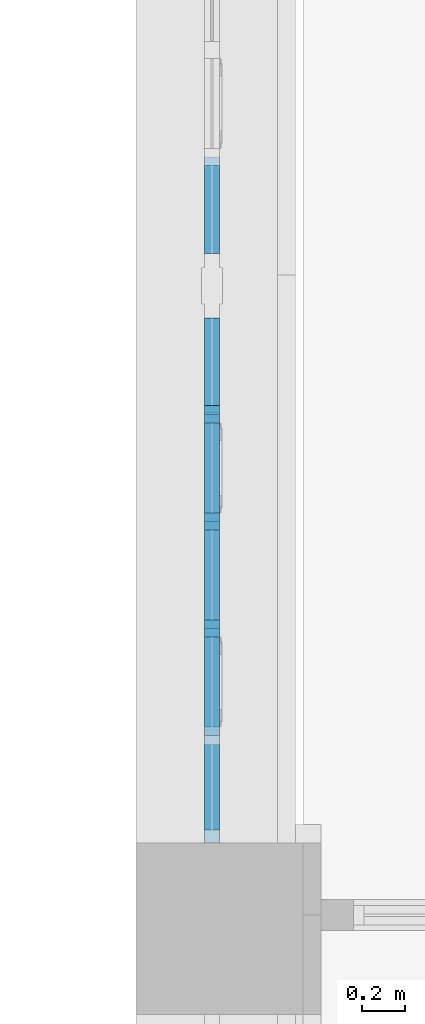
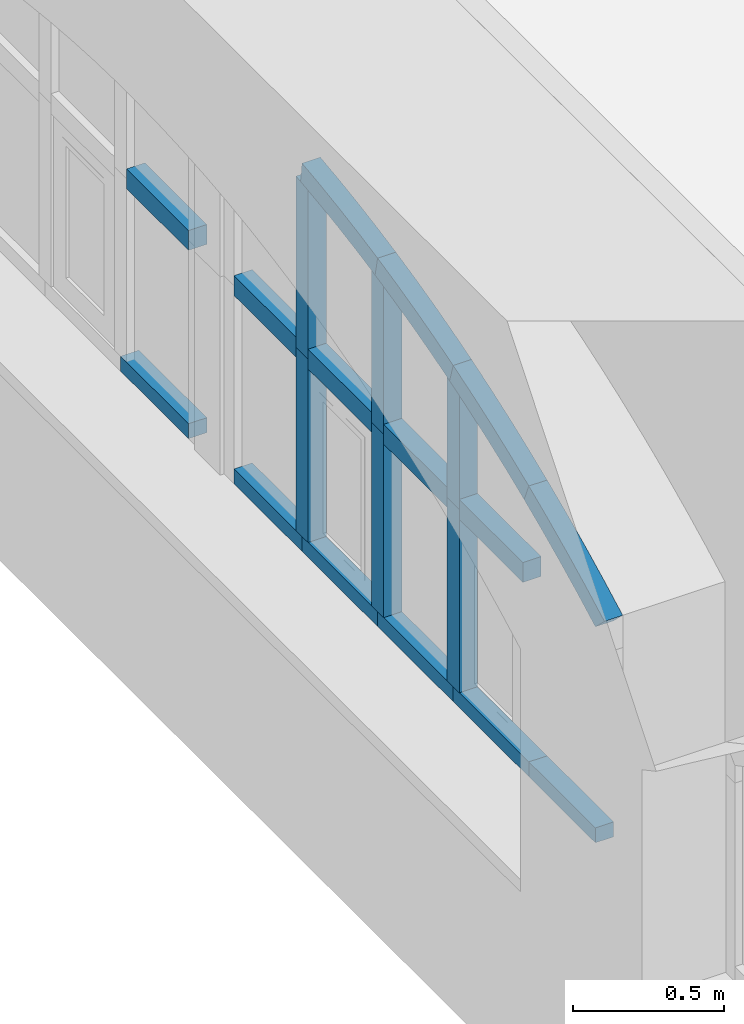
# One storey, part 15 of 32: 21 members, 1 element without a shape of its own.
"""IFC2X3 building model written with IfcOpenShell, lengths in millimetres."""

from ifc_helpers import new_model, entity, si_unit, converted_unit, derived_unit, direction, frame, frame_2d, origin, place, context, subcontext, project, spatial, polyline, circle_curve, parameter, trimmed, segment, composite_curve, rectangle, outline, extrude, source, transform, mapped, material, type_object, type_shapes, element, aggregate, save


model = new_model("IFC2X3")

# Units and contexts
model_context = context("Model", 3, precision=0.01, world=origin(), true_north=direction((6.123031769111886e-17, 1.0)))
body_context = subcontext(model_context, "Body", "Model", "MODEL_VIEW")
ifc_project = project(units=[si_unit("LENGTHUNIT", "METRE", prefix="MILLI"), si_unit("AREAUNIT", "SQUARE_METRE"), si_unit("VOLUMEUNIT", "CUBIC_METRE"), converted_unit("PLANEANGLEUNIT", "DEGREE", entity("IfcPlaneAngleMeasure", 0.017453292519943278), si_unit("PLANEANGLEUNIT", "RADIAN"), dimensions=[0, 0, 0, 0, 0, 0, 0]), si_unit("MASSUNIT", "GRAM", prefix="KILO"), derived_unit("MASSDENSITYUNIT", [(si_unit("MASSUNIT", "GRAM", prefix="KILO"), 1), (si_unit("LENGTHUNIT", "METRE"), -3)]), derived_unit("IONCONCENTRATIONUNIT", [(si_unit("MASSUNIT", "GRAM", prefix="KILO"), 1), (si_unit("LENGTHUNIT", "METRE"), -3)]), derived_unit("MOMENTOFINERTIAUNIT", [(si_unit("LENGTHUNIT", "METRE"), 4)]), si_unit("TIMEUNIT", "SECOND"), si_unit("FREQUENCYUNIT", "HERTZ"), si_unit("THERMODYNAMICTEMPERATUREUNIT", "DEGREE_CELSIUS"), derived_unit("THERMALTRANSMITTANCEUNIT", [(si_unit("MASSUNIT", "GRAM", prefix="KILO"), 1), (si_unit("THERMODYNAMICTEMPERATUREUNIT", "KELVIN"), -1), (si_unit("TIMEUNIT", "SECOND"), -3)]), derived_unit("THERMALCONDUCTANCEUNIT", [(si_unit("MASSUNIT", "GRAM", prefix="KILO"), 1), (si_unit("THERMODYNAMICTEMPERATUREUNIT", "KELVIN"), -1), (si_unit("TIMEUNIT", "SECOND"), -3), (si_unit("LENGTHUNIT", "METRE"), 1)]), derived_unit("VOLUMETRICFLOWRATEUNIT", [(si_unit("LENGTHUNIT", "METRE", prefix="DECI"), 3), (si_unit("TIMEUNIT", "SECOND"), -1)]), derived_unit("MASSFLOWRATEUNIT", [(si_unit("MASSUNIT", "GRAM", prefix="KILO"), 1), (si_unit("TIMEUNIT", "SECOND"), -1)]), derived_unit("ROTATIONALFREQUENCYUNIT", [(si_unit("TIMEUNIT", "SECOND"), -1)]), si_unit("ELECTRICCURRENTUNIT", "AMPERE"), si_unit("ELECTRICVOLTAGEUNIT", "VOLT"), si_unit("POWERUNIT", "WATT"), si_unit("FORCEUNIT", "NEWTON", prefix="KILO"), si_unit("ILLUMINANCEUNIT", "LUX"), si_unit("LUMINOUSFLUXUNIT", "LUMEN"), si_unit("LUMINOUSINTENSITYUNIT", "CANDELA"), si_unit("ENERGYUNIT", "JOULE"), derived_unit("USERDEFINED", [(si_unit("MASSUNIT", "GRAM", prefix="KILO"), -1), (si_unit("LENGTHUNIT", "METRE"), -2), (si_unit("TIMEUNIT", "SECOND"), 3), (si_unit("LUMINOUSFLUXUNIT", "LUMEN"), 1)]), derived_unit("USERDEFINED", [(si_unit("MASSUNIT", "GRAM", prefix="KILO"), 1), (si_unit("TIMEUNIT", "SECOND"), -3), (si_unit("LENGTHUNIT", "METRE"), 3), (si_unit("ELECTRICCURRENTUNIT", "AMPERE"), -2)]), derived_unit("SOUNDPOWERUNIT", [(si_unit("MASSUNIT", "GRAM", prefix="KILO"), 1), (si_unit("TIMEUNIT", "SECOND"), -3), (si_unit("LENGTHUNIT", "METRE"), 2)]), derived_unit("SOUNDPRESSUREUNIT", [(si_unit("MASSUNIT", "GRAM", prefix="KILO"), 1), (si_unit("LENGTHUNIT", "METRE"), -1), (si_unit("TIMEUNIT", "SECOND"), -2)]), derived_unit("LINEARVELOCITYUNIT", [(si_unit("LENGTHUNIT", "METRE"), 1), (si_unit("TIMEUNIT", "SECOND"), -1)]), si_unit("PRESSUREUNIT", "PASCAL"), derived_unit("USERDEFINED", [(si_unit("MASSUNIT", "GRAM", prefix="KILO"), 1), (si_unit("LENGTHUNIT", "METRE"), -2), (si_unit("TIMEUNIT", "SECOND"), -2)]), derived_unit("LINEARFORCEUNIT", [(si_unit("MASSUNIT", "GRAM", prefix="KILO"), 1), (si_unit("TIMEUNIT", "SECOND"), -2)]), derived_unit("PLANARFORCEUNIT", [(si_unit("MASSUNIT", "GRAM", prefix="KILO"), 1), (si_unit("LENGTHUNIT", "METRE"), -1), (si_unit("TIMEUNIT", "SECOND"), -2)]), derived_unit("SPECIFICHEATCAPACITYUNIT", [(si_unit("THERMODYNAMICTEMPERATUREUNIT", "KELVIN"), -1), (si_unit("LENGTHUNIT", "METRE"), 2), (si_unit("TIMEUNIT", "SECOND"), -2)]), derived_unit("HEATFLUXDENSITYUNIT", [(si_unit("MASSUNIT", "GRAM", prefix="KILO"), 1), (si_unit("TIMEUNIT", "SECOND"), -3)]), derived_unit("HEATINGVALUEUNIT", [(si_unit("LENGTHUNIT", "METRE"), 2), (si_unit("TIMEUNIT", "SECOND"), -2)]), derived_unit("VAPORPERMEABILITYUNIT", [(si_unit("LENGTHUNIT", "METRE"), -1), (si_unit("TIMEUNIT", "SECOND"), 1)]), derived_unit("DYNAMICVISCOSITYUNIT", [(si_unit("MASSUNIT", "GRAM", prefix="KILO"), 1), (si_unit("TIMEUNIT", "SECOND"), -1), (si_unit("LENGTHUNIT", "METRE"), -1)]), derived_unit("THERMALEXPANSIONCOEFFICIENTUNIT", [(si_unit("THERMODYNAMICTEMPERATUREUNIT", "KELVIN"), -1)]), derived_unit("MODULUSOFELASTICITYUNIT", [(si_unit("MASSUNIT", "GRAM", prefix="KILO"), 1), (si_unit("LENGTHUNIT", "METRE"), -1), (si_unit("TIMEUNIT", "SECOND"), -2)]), derived_unit("ISOTHERMALMOISTURECAPACITYUNIT", [(si_unit("MASSUNIT", "GRAM", prefix="KILO"), -1), (si_unit("LENGTHUNIT", "METRE"), 3)]), derived_unit("MOISTUREDIFFUSIVITYUNIT", [(si_unit("TIMEUNIT", "SECOND"), -1), (si_unit("LENGTHUNIT", "METRE"), 2)]), derived_unit("MASSPERLENGTHUNIT", [(si_unit("MASSUNIT", "GRAM", prefix="KILO"), 1), (si_unit("LENGTHUNIT", "METRE"), -1)]), derived_unit("THERMALRESISTANCEUNIT", [(si_unit("MASSUNIT", "GRAM", prefix="KILO"), -1), (si_unit("TIMEUNIT", "SECOND"), 3), (si_unit("THERMODYNAMICTEMPERATUREUNIT", "KELVIN"), 1)]), derived_unit("ACCELERATIONUNIT", [(si_unit("LENGTHUNIT", "METRE"), 1), (si_unit("TIMEUNIT", "SECOND"), -2)]), derived_unit("ANGULARVELOCITYUNIT", [(si_unit("TIMEUNIT", "SECOND"), -1), (si_unit("PLANEANGLEUNIT", "RADIAN"), 1)]), derived_unit("LINEARSTIFFNESSUNIT", [(si_unit("MASSUNIT", "GRAM", prefix="KILO"), 1), (si_unit("TIMEUNIT", "SECOND"), -2)]), derived_unit("WARPINGCONSTANTUNIT", [(si_unit("LENGTHUNIT", "METRE"), 6)]), derived_unit("LINEARMOMENTUNIT", [(si_unit("MASSUNIT", "GRAM", prefix="KILO"), 1), (si_unit("LENGTHUNIT", "METRE"), 1), (si_unit("TIMEUNIT", "SECOND"), -2)]), derived_unit("TORQUEUNIT", [(si_unit("MASSUNIT", "GRAM", prefix="KILO"), 1), (si_unit("LENGTHUNIT", "METRE"), 2), (si_unit("TIMEUNIT", "SECOND"), -2)])], contexts=[model_context])

# Site, building, storey
site_placement = place(None, origin())
site = spatial("IfcSite", under=ifc_project, at=site_placement, Name="Default", CompositionType="ELEMENT")
building_placement = place(site_placement, origin())
building = spatial("IfcBuilding", under=site, at=building_placement, Name="Eesti Rahvusraamatukogu hoone renoveerimise projekteerimistööd", CompositionType="ELEMENT")
storey_placement = place(building_placement, frame((0.0, 0.0, 4950.000000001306)))
storey = spatial("IfcBuildingStorey", under=building, at=storey_placement, Name="2. korrus", CompositionType="ELEMENT", Elevation=4950.000000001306)

# Curtain wall, members
curtain_wall_type = type_object("IfcCurtainWallType", Name="Curtain Wall:Ak-04", PredefinedType="NOTDEFINED")
curtain_wall_placement = place(storey_placement, frame((0.0, 0.0, -4950.000000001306)))
curtain_wall = element("IfcCurtainWall", 1, at=curtain_wall_placement, inside=storey, type_object=curtain_wall_type, Name="Curtain Wall:Ak-04", ObjectType="Curtain Wall:Ak-04")
ifc_material = material(Name="LUMION_dark steel window frames")
member_type_1 = type_object("IfcMemberType", Name="Rectangular Mullion:NEW 80x70mm", PredefinedType="MULLION", material=ifc_material)
shared_shape_1 = source(origin(), body_context, "Body", "SweptSolid", [
    extrude(rectangle(XDim=80.0, YDim=70.0, at=frame_2d((0.0, -3.552713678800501e-15), x_axis=(1.0, 0.0))), frame((0.0, 0.0, -420.0), z_axis=(0.0, 0.0, 1.0), x_axis=(-1.0, 0.0, 0.0)), (0.0, 0.0, 1.0), 419.999999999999),
])
type_shapes(member_type_1, [shared_shape_1])
member_1_placement = place(curtain_wall_placement, frame((-36425.0, 38297.50000000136, 6550.000000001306), z_axis=(0.0, -1.0, 0.0), x_axis=(0.0, 0.0, 1.0)))
member_1 = element("IfcMember", 2, at=member_1_placement, type_object=member_type_1, material=ifc_material, Name="Rectangular Mullion:NEW 80x70mm", ObjectType="Rectangular Mullion:NEW 80x70mm", context=body_context, shape_type="MappedRepresentation", body=[
    mapped(shared_shape_1, transform((0.0, 0.0, 0.0), scale=1.0)),
])
member_2_placement = place(curtain_wall_placement, frame((-36425.0, 37797.50000000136, 6550.000000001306), z_axis=(0.0, -1.0, 0.0), x_axis=(0.0, 0.0, 1.0)))
member_2 = element("IfcMember", 3, at=member_2_placement, type_object=member_type_1, material=ifc_material, Name="Rectangular Mullion:NEW 80x70mm", ObjectType="Rectangular Mullion:NEW 80x70mm", context=body_context, shape_type="MappedRepresentation", body=[
    mapped(shared_shape_1, transform((0.0, 0.0, 0.0), scale=1.0)),
])
member_3_placement = place(curtain_wall_placement, frame((-36425.0, 37297.50000000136, 6550.000000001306), z_axis=(0.0, -1.0, 0.0), x_axis=(0.0, 0.0, 1.0)))
member_3 = element("IfcMember", 4, at=member_3_placement, type_object=member_type_1, material=ifc_material, Name="Rectangular Mullion:NEW 80x70mm", ObjectType="Rectangular Mullion:NEW 80x70mm", context=body_context, shape_type="MappedRepresentation", body=[
    mapped(shared_shape_1, transform((0.0, 0.0, 0.0), scale=1.0)),
])
member_type_2 = type_object("IfcMemberType", Name="Rectangular Mullion:NEW 80x70mm", PredefinedType="MULLION", material=ifc_material)
shared_shape_2 = source(origin(), body_context, "Body", "SweptSolid", [
    extrude(rectangle(XDim=80.0, YDim=70.0, at=frame_2d((0.0, -3.552713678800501e-15), x_axis=(1.0, 0.0))), frame((0.0, 0.0, -410.0), z_axis=(0.0, 0.0, 1.0), x_axis=(-1.0, 0.0, 0.0)), (0.0, 0.0, 1.0), 409.9999999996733),
])
type_shapes(member_type_2, [shared_shape_2])
member_4_placement = place(curtain_wall_placement, frame((-36425.0, 39507.50000000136, 6550.000000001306), z_axis=(0.0, -1.0, 0.0), x_axis=(0.0, 0.0, 1.0)))
member_4 = element("IfcMember", 5, at=member_4_placement, type_object=member_type_2, material=ifc_material, Name="Rectangular Mullion:NEW 80x70mm", ObjectType="Rectangular Mullion:NEW 80x70mm", context=body_context, shape_type="MappedRepresentation", body=[
    mapped(shared_shape_2, transform((0.0, 0.0, 0.0), scale=1.0)),
])
member_5_placement = place(curtain_wall_placement, frame((-36425.0, 38797.50000000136, 6550.000000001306), z_axis=(0.0, -1.0, 0.0), x_axis=(0.0, 0.0, 1.0)))
member_5 = element("IfcMember", 6, at=member_5_placement, type_object=member_type_2, material=ifc_material, Name="Rectangular Mullion:NEW 80x70mm", ObjectType="Rectangular Mullion:NEW 80x70mm", context=body_context, shape_type="MappedRepresentation", body=[
    mapped(shared_shape_2, transform((0.0, 0.0, 0.0), scale=1.0)),
])
member_type_3 = type_object("IfcMemberType", Name="Rectangular Mullion:NEW 60x70mm", PredefinedType="MULLION", material=ifc_material)
shared_shape_3 = source(origin(), body_context, "Body", "SweptSolid", [
    extrude(rectangle(XDim=60.0, YDim=70.0, at=frame_2d((0.0, 3.552713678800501e-15), x_axis=(1.0, 0.0))), frame((-30.0, 0.0, -500.0), z_axis=(0.0, 0.0, 1.0), x_axis=(-1.0, 0.0, 0.0)), (0.0, 0.0, 1.0), 499.999999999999),
])
type_shapes(member_type_3, [shared_shape_3])
member_6_placement = place(curtain_wall_placement, frame((-36425.0, 38757.50000000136, 5750.000000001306), z_axis=(0.0, 1.0, 0.0), x_axis=(0.0, 0.0, -1.0)))
member_6 = element("IfcMember", 7, at=member_6_placement, type_object=member_type_3, material=ifc_material, Name="Rectangular Mullion:NEW 60x70mm", ObjectType="Rectangular Mullion:NEW 60x70mm", context=body_context, shape_type="MappedRepresentation", body=[
    mapped(shared_shape_3, transform((0.0, 0.0, 0.0), scale=1.0)),
])
member_7_placement = place(curtain_wall_placement, frame((-36425.0, 38257.50000000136, 5750.000000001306), z_axis=(0.0, 1.0, 0.0), x_axis=(0.0, 0.0, -1.0)))
member_7 = element("IfcMember", 8, at=member_7_placement, type_object=member_type_3, material=ifc_material, Name="Rectangular Mullion:NEW 60x70mm", ObjectType="Rectangular Mullion:NEW 60x70mm", context=body_context, shape_type="MappedRepresentation", body=[
    mapped(shared_shape_3, transform((0.0, 0.0, 0.0), scale=1.0)),
])
member_8_placement = place(curtain_wall_placement, frame((-36425.0, 37757.50000000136, 5750.000000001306), z_axis=(0.0, 1.0, 0.0), x_axis=(0.0, 0.0, -1.0)))
member_8 = element("IfcMember", 9, at=member_8_placement, type_object=member_type_3, material=ifc_material, Name="Rectangular Mullion:NEW 60x70mm", ObjectType="Rectangular Mullion:NEW 60x70mm", context=body_context, shape_type="MappedRepresentation", body=[
    mapped(shared_shape_3, transform((0.0, 0.0, 0.0), scale=1.0)),
])
member_type_4 = type_object("IfcMemberType", Name="Rectangular Mullion:NEW 60x70mm", PredefinedType="MULLION", material=ifc_material)
shared_shape_4 = source(origin(), body_context, "Body", "SweptSolid", [
    extrude(rectangle(XDim=60.0, YDim=70.0, at=frame_2d((0.0, 3.552713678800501e-15), x_axis=(1.0, 0.0))), frame((-30.0, 0.0, -450.0), z_axis=(0.0, 0.0, 1.0), x_axis=(-1.0, 0.0, 0.0)), (0.0, 0.0, 1.0), 449.99999999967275),
])
type_shapes(member_type_4, [shared_shape_4])
member_9_placement = place(curtain_wall_placement, frame((-36425.0, 39957.50000000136, 5750.000000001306), z_axis=(0.0, 1.0, 0.0), x_axis=(0.0, 0.0, -1.0)))
member_9 = element("IfcMember", 10, at=member_9_placement, type_object=member_type_4, material=ifc_material, Name="Rectangular Mullion:NEW 60x70mm", ObjectType="Rectangular Mullion:NEW 60x70mm", context=body_context, shape_type="MappedRepresentation", body=[
    mapped(shared_shape_4, transform((0.0, 0.0, 0.0), scale=1.0)),
])
member_type_5 = type_object("IfcMemberType", Name="Rectangular Mullion:NEW 60x70mm", PredefinedType="MULLION", material=ifc_material)
shared_shape_5 = source(origin(), body_context, "Body", "SweptSolid", [
    extrude(rectangle(XDim=60.0, YDim=70.0, at=frame_2d((0.0, 3.552713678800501e-15), x_axis=(1.0, 0.0))), frame((-30.0, 0.0, -440.0), z_axis=(0.0, 0.0, 1.0), x_axis=(-1.0, 0.0, 0.0)), (0.0, 0.0, 1.0), 439.9999999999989),
])
type_shapes(member_type_5, [shared_shape_5])
member_10_placement = place(curtain_wall_placement, frame((-36425.0, 37257.50000000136, 5750.000000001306), z_axis=(0.0, 1.0, 0.0), x_axis=(0.0, 0.0, -1.0)))
member_10 = element("IfcMember", 11, at=member_10_placement, type_object=member_type_5, material=ifc_material, Name="Rectangular Mullion:NEW 60x70mm", ObjectType="Rectangular Mullion:NEW 60x70mm", context=body_context, shape_type="MappedRepresentation", body=[
    mapped(shared_shape_5, transform((0.0, 0.0, 0.0), scale=1.0)),
])
member_type_6 = type_object("IfcMemberType", Name="Rectangular Mullion:NEW 60x70mm", PredefinedType="MULLION", material=ifc_material)
shared_shape_6 = source(origin(), body_context, "Body", "SweptSolid", [
    extrude(rectangle(XDim=60.0, YDim=70.0, at=frame_2d((0.0, 3.552713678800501e-15), x_axis=(1.0, 0.0))), frame((-30.0, 0.0, -450.0), z_axis=(0.0, 0.0, 1.0), x_axis=(-1.0, 0.0, 0.0)), (0.0, 0.0, 1.0), 449.9999999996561),
])
type_shapes(member_type_6, [shared_shape_6])
member_11_placement = place(curtain_wall_placement, frame((-36425.0, 39207.50000000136, 5750.000000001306), z_axis=(0.0, 1.0, 0.0), x_axis=(0.0, 0.0, -1.0)))
member_11 = element("IfcMember", 12, at=member_11_placement, type_object=member_type_6, material=ifc_material, Name="Rectangular Mullion:NEW 60x70mm", ObjectType="Rectangular Mullion:NEW 60x70mm", context=body_context, shape_type="MappedRepresentation", body=[
    mapped(shared_shape_6, transform((0.0, 0.0, 0.0), scale=1.0)),
])
member_type_7 = type_object("IfcMemberType", Name="Rectangular Mullion:NEW 80x70mm", PredefinedType="MULLION", material=ifc_material)
shared_shape_7 = source(origin(), body_context, "Body", "SweptSolid", [
    extrude(rectangle(XDim=80.0, YDim=70.0, at=frame_2d((0.0, -3.552713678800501e-15), x_axis=(1.0, 0.0))), frame((0.0, 0.0, -740.0), z_axis=(0.0, 0.0, 1.0), x_axis=(-1.0, 0.0, 0.0)), (0.0, 0.0, 1.0), 740.0),
])
type_shapes(member_type_7, [shared_shape_7])
member_12_placement = place(curtain_wall_placement, frame((-36425.0, 37757.50000000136, 5810.000000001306), z_axis=(0.0, 0.0, -1.0), x_axis=(0.0, -1.0, 0.0)))
member_12 = element("IfcMember", 13, at=member_12_placement, type_object=member_type_7, material=ifc_material, Name="Rectangular Mullion:NEW 80x70mm", ObjectType="Rectangular Mullion:NEW 80x70mm", context=body_context, shape_type="MappedRepresentation", body=[
    mapped(shared_shape_7, transform((0.0, 0.0, 0.0), scale=1.0)),
])
member_13_placement = place(curtain_wall_placement, frame((-36425.0, 38257.50000000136, 5810.000000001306), z_axis=(0.0, 0.0, -1.0), x_axis=(0.0, -1.0, 0.0)))
member_13 = element("IfcMember", 14, at=member_13_placement, type_object=member_type_7, material=ifc_material, Name="Rectangular Mullion:NEW 80x70mm", ObjectType="Rectangular Mullion:NEW 80x70mm", context=body_context, shape_type="MappedRepresentation", body=[
    mapped(shared_shape_7, transform((0.0, 0.0, 0.0), scale=1.0)),
])
member_14_placement = place(curtain_wall_placement, frame((-36425.0, 38757.50000000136, 5810.000000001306), z_axis=(0.0, 0.0, -1.0), x_axis=(0.0, -1.0, 0.0)))
member_14 = element("IfcMember", 15, at=member_14_placement, type_object=member_type_7, material=ifc_material, Name="Rectangular Mullion:NEW 80x70mm", ObjectType="Rectangular Mullion:NEW 80x70mm", context=body_context, shape_type="MappedRepresentation", body=[
    mapped(shared_shape_7, transform((0.0, 0.0, 0.0), scale=1.0)),
])
member_type_8 = type_object("IfcMemberType", Name="Rectangular Mullion:NEW 80x70mm", PredefinedType="MULLION", material=ifc_material)
shared_shape_8 = source(origin(), body_context, "Body", "SweptSolid", [
    extrude(outline(composite_curve([segment(polyline([(-285.0515721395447, -44.75856233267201), (174.81782335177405, -44.75856233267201)]), True, "CONTINUOUS"), segment(trimmed(circle_curve(frame_2d((-4864.82769154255, 1595.2414376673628), x_axis=(0.9206661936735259, -0.3903508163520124)), 5299.776119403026), [parameter(4.950420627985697)], [parameter(5.674213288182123)], True, "PARAMETER"), True, "CONTINUOUS"), segment(trimmed(circle_curve(frame_2d((-4864.827691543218, 1595.2414376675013), x_axis=(0.9547498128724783, -0.297410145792)), 5299.776119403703), [parameter(0.0)], [parameter(0.18342876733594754)], True, "PARAMETER"), True, "CONTINUOUS"), segment(polyline([(200.15275420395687, 35.24143766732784), (-285.0515721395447, 35.24143766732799)]), True, "CONTINUOUS"), segment(polyline([(-285.0515721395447, 35.24143766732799), (-285.0515721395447, -44.75856233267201)]), True, "CONTINUOUS")], self_intersect=False)), frame((-4.758562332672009, -35.0, -285.0515721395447), z_axis=(0.0, 1.0, 0.0), x_axis=(0.0, 0.0, -1.0)), (0.0, 0.0, 1.0), 70.00000000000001),
])
type_shapes(member_type_8, [shared_shape_8])
member_15_placement = place(curtain_wall_placement, frame((-36425.0, 37757.50000000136, 6550.000000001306), z_axis=(0.0, 0.0, -1.0), x_axis=(0.0, -1.0, 0.0)))
member_15 = element("IfcMember", 16, at=member_15_placement, type_object=member_type_8, material=ifc_material, Name="Rectangular Mullion:NEW 80x70mm", ObjectType="Rectangular Mullion:NEW 80x70mm", context=body_context, shape_type="MappedRepresentation", body=[
    mapped(shared_shape_8, transform((0.0, 0.0, 0.0), scale=1.0)),
])
member_type_9 = type_object("IfcMemberType", Name="Rectangular Mullion:NEW 80x70mm", PredefinedType="MULLION", material=ifc_material)
shared_shape_9 = source(origin(), body_context, "Body", "SweptSolid", [
    extrude(outline(composite_curve([segment(polyline([(-363.37678895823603, -43.27151160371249), (232.56220317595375, -43.27151160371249)]), True, "CONTINUOUS"), segment(trimmed(circle_curve(frame_2d((-4943.152908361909, 1096.728488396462), x_axis=(0.9547498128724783, -0.29741014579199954)), 5299.776119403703), [parameter(4.880521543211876)], [parameter(5.5036722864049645)], True, "PARAMETER"), True, "CONTINUOUS"), segment(trimmed(circle_curve(frame_2d((-4943.152908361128, 1096.72848839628), x_axis=(0.9788729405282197, -0.20446947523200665)), 5299.7761194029), [parameter(0.0)], [parameter(0.2609913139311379)], True, "PARAMETER"), True, "CONTINUOUS"), segment(polyline([(249.536848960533, 36.728488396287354), (-363.37678895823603, 36.72848839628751)]), True, "CONTINUOUS"), segment(polyline([(-363.37678895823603, 36.72848839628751), (-363.37678895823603, -43.27151160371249)]), True, "CONTINUOUS")], self_intersect=False)), frame((-3.271511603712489, -35.0, -363.37678895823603), z_axis=(0.0, 1.0, 0.0), x_axis=(0.0, 0.0, -1.0)), (0.0, 0.0, 1.0), 70.00000000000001),
])
type_shapes(member_type_9, [shared_shape_9])
member_16_placement = place(curtain_wall_placement, frame((-36425.0, 38257.50000000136, 6550.000000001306), z_axis=(0.0, 0.0, -1.0), x_axis=(0.0, -1.0, 0.0)))
member_16 = element("IfcMember", 17, at=member_16_placement, type_object=member_type_9, material=ifc_material, Name="Rectangular Mullion:NEW 80x70mm", ObjectType="Rectangular Mullion:NEW 80x70mm", context=body_context, shape_type="MappedRepresentation", body=[
    mapped(shared_shape_9, transform((0.0, 0.0, 0.0), scale=1.0)),
])
member_type_10 = type_object("IfcMemberType", Name="Rectangular Mullion:NEW 80x70mm", PredefinedType="MULLION", material=ifc_material)
shared_shape_10 = source(origin(), body_context, "Body", "SweptSolid", [
    extrude(outline(composite_curve([segment(polyline([(-411.69630029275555, -41.78446087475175), (269.51863863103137, -41.78446087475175)]), True, "CONTINUOUS"), segment(trimmed(circle_curve(frame_2d((-4991.472419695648, 598.2155391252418), x_axis=(0.9788729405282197, -0.20446947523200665)), 5299.7761194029), [parameter(4.862488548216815)], [parameter(5.39499243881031)], True, "PARAMETER"), True, "CONTINUOUS"), segment(trimmed(circle_curve(frame_2d((-4991.472419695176, 598.2155391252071), x_axis=(0.9937612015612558, -0.11152880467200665)), 5299.776119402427), [parameter(0.0)], [parameter(0.3379797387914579)], True, "PARAMETER"), True, "CONTINUOUS"), segment(polyline([(278.63449722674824, 38.21553912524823), (-411.69630029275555, 38.21553912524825)]), True, "CONTINUOUS"), segment(polyline([(-411.69630029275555, 38.21553912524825), (-411.69630029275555, -41.78446087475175)]), True, "CONTINUOUS")], self_intersect=False)), frame((-1.7844608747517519, -35.0, -411.69630029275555), z_axis=(0.0, 1.0, 0.0), x_axis=(0.0, 0.0, -1.0)), (0.0, 0.0, 1.0), 69.99999999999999),
])
type_shapes(member_type_10, [shared_shape_10])
member_17_placement = place(curtain_wall_placement, frame((-36425.0, 38757.50000000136, 6550.000000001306), z_axis=(0.0, 0.0, -1.0), x_axis=(0.0, -1.0, 0.0)))
member_17 = element("IfcMember", 18, at=member_17_placement, type_object=member_type_10, material=ifc_material, Name="Rectangular Mullion:NEW 80x70mm", ObjectType="Rectangular Mullion:NEW 80x70mm", context=body_context, shape_type="MappedRepresentation", body=[
    mapped(shared_shape_10, transform((0.0, 0.0, 0.0), scale=1.0)),
])
member_type_11 = type_object("IfcMemberType", Name="Rectangular Mullion:NEW 80x70mm", PredefinedType="MULLION", material=ifc_material)
shared_shape_11 = source(origin(), body_context, "Body", "SweptSolid", [
    extrude(outline(composite_curve([segment(polyline([(-51.82710825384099, -251.02635265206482), (28.172891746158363, -251.02635265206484)]), True, "CONTINUOUS"), segment(trimmed(circle_curve(frame_2d((5327.949011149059, -251.02635265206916), x_axis=(-0.995570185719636, 0.09402130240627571)), 5299.7761194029), [parameter(3.5622212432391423e-13)], [parameter(5.39499243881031)], True, "PARAMETER"), False, "CONTINUOUS"), segment(polyline([(51.64991568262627, 247.26550055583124), (-27.995699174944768, 254.78720474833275)]), True, "CONTINUOUS"), segment(trimmed(circle_curve(frame_2d((5327.949011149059, -251.02635265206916), x_axis=(-0.995570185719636, 0.09402130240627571)), 5379.7761194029), [parameter(3.5622212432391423e-13)], [parameter(5.39499243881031)], True, "PARAMETER"), True, "CONTINUOUS")], self_intersect=False)), frame((-51.827108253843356, -35.0, -251.02635265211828), z_axis=(0.0, 1.0, 0.0), x_axis=(-0.9955701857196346, 0.0, 0.09402130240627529)), (0.0, 0.0, 1.0), 70.00000000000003),
])
type_shapes(member_type_11, [shared_shape_11])
member_18_placement = place(curtain_wall_placement, frame((-36425.0, 38257.50000000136, 7236.341149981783), z_axis=(0.0, -0.9788729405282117, -0.2044694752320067), x_axis=(0.0, -0.2044694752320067, 0.9788729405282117)))
member_18 = element("IfcMember", 19, at=member_18_placement, type_object=member_type_11, material=ifc_material, Name="Rectangular Mullion:NEW 80x70mm", ObjectType="Rectangular Mullion:NEW 80x70mm", context=body_context, shape_type="MappedRepresentation", body=[
    mapped(shared_shape_11, transform((0.0, 0.0, 0.0), scale=1.0)),
])
member_type_12 = type_object("IfcMemberType", Name="Rectangular Mullion:NEW 80x70mm", PredefinedType="MULLION", material=ifc_material)
shared_shape_12 = source(origin(), body_context, "Body", "SweptSolid", [
    extrude(outline(composite_curve([segment(polyline([(-52.30804182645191, -256.0677643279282), (27.691958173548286, -256.0677643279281)]), True, "CONTINUOUS"), segment(trimmed(circle_curve(frame_2d((5327.46807757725, -256.0677643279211), x_axis=(-0.9953900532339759, 0.09590955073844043)), 5299.776119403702), [parameter(3.5622212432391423e-13)], [parameter(5.5036722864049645)], True, "PARAMETER"), False, "CONTINUOUS"), segment(polyline([(52.12364395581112, 252.2313822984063), (-27.507560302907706, 259.9041463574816)]), True, "CONTINUOUS"), segment(trimmed(circle_curve(frame_2d((5327.46807757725, -256.0677643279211), x_axis=(-0.9953900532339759, 0.09590955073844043)), 5379.776119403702), [parameter(3.5622212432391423e-13)], [parameter(5.5036722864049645)], True, "PARAMETER"), True, "CONTINUOUS")], self_intersect=False)), frame((-52.30804182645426, -35.0, -256.06776432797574), z_axis=(0.0, 1.0, 0.0), x_axis=(-0.9953900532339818, 0.0, 0.09590955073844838)), (0.0, 0.0, 1.0), 69.99999999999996),
])
type_shapes(member_type_12, [shared_shape_12])
member_19_placement = place(curtain_wall_placement, frame((-36425.0, 37757.50000000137, 7106.564123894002), z_axis=(0.0, -0.9547498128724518, -0.2974101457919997), x_axis=(0.0, -0.2974101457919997, 0.9547498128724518)))
member_19 = element("IfcMember", 20, at=member_19_placement, type_object=member_type_12, material=ifc_material, Name="Rectangular Mullion:NEW 80x70mm", ObjectType="Rectangular Mullion:NEW 80x70mm", context=body_context, shape_type="MappedRepresentation", body=[
    mapped(shared_shape_12, transform((0.0, 0.0, 0.0), scale=1.0)),
])
member_type_13 = type_object("IfcMemberType", Name="Rectangular Mullion:NEW 80x70mm", PredefinedType="MULLION", material=ifc_material)
shared_shape_13 = source(origin(), body_context, "Body", "SweptSolid", [
    extrude(outline(composite_curve([segment(polyline([(-53.081999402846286, -263.9769105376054), (26.918000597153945, -263.9769105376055)]), True, "CONTINUOUS"), segment(trimmed(circle_curve(frame_2d((5326.694120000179, -263.97691053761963), x_axis=(-0.9951001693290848, 0.09887190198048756)), 5299.776119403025), [parameter(3.5622212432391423e-13)], [parameter(5.674213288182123)], True, "PARAMETER"), False, "CONTINUOUS"), segment(polyline([(52.886006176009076, 260.0220344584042), (-26.722007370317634, 267.9317866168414)]), True, "CONTINUOUS"), segment(trimmed(circle_curve(frame_2d((5326.694120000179, -263.97691053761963), x_axis=(-0.9951001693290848, 0.09887190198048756)), 5379.776119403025), [parameter(3.5622212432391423e-13)], [parameter(5.674213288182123)], True, "PARAMETER"), True, "CONTINUOUS")], self_intersect=False)), frame((-53.0819994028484, -35.0, -263.97691053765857), z_axis=(0.0, 1.0, 0.0), x_axis=(-0.9951001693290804, 0.0, 0.09887190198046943)), (0.0, 0.0, 1.0), 69.99999999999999),
])
type_shapes(member_type_13, [shared_shape_13])
member_20_placement = place(curtain_wall_placement, frame((-36425.0, 37257.50000000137, 6923.201883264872), z_axis=(0.0, -0.9206661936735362, -0.39035081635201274), x_axis=(0.0, -0.39035081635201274, 0.9206661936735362)))
member_20 = element("IfcMember", 21, at=member_20_placement, type_object=member_type_13, material=ifc_material, Name="Rectangular Mullion:NEW 80x70mm", ObjectType="Rectangular Mullion:NEW 80x70mm", context=body_context, shape_type="MappedRepresentation", body=[
    mapped(shared_shape_13, transform((0.0, 0.0, 0.0), scale=1.0)),
])
member_type_14 = type_object("IfcMemberType", Name="Rectangular Mullion:NEW 80x70mm", PredefinedType="MULLION", material=ifc_material)
shared_shape_14 = source(origin(), body_context, "Body", "SweptSolid", [
    extrude(outline(composite_curve([segment(polyline([(-53.643988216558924, -269.50314648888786), (26.35601178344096, -269.503146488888)]), True, "CONTINUOUS"), segment(trimmed(circle_curve(frame_2d((5326.132131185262, -269.5031464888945), x_axis=(-0.9946591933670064, 0.10321380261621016)), 5299.77611940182), [parameter(0.263670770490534)], [parameter(5.924265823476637)], True, "PARAMETER"), False, "CONTINUOUS"), segment(polyline([(52.19962066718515, 253.24228895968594), (-24.911644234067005, 285.7640040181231)]), True, "CONTINUOUS"), segment(trimmed(circle_curve(frame_2d((5326.132131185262, -269.5031464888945), x_axis=(-0.9946591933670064, 0.10321380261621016)), 5379.77611940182), [parameter(3.5622212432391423e-13)], [parameter(5.924265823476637)], True, "PARAMETER"), True, "CONTINUOUS")], self_intersect=False)), frame((-54.273385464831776, -35.0, -281.6665681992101), z_axis=(0.0, 1.0, 0.0), x_axis=(-0.9946591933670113, 0.0, 0.1032138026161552)), (0.0, 0.0, 1.0), 69.99999999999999),
])
type_shapes(member_type_14, [shared_shape_14])
member_21_placement = place(curtain_wall_placement, frame((-36425.0, 36757.50000000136, 6680.000000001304), z_axis=(0.0, -0.8754595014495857, -0.48329148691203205), x_axis=(0.0, -0.48329148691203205, 0.8754595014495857)))
member_21 = element("IfcMember", 22, at=member_21_placement, type_object=member_type_14, material=ifc_material, Name="Rectangular Mullion:NEW 80x70mm", ObjectType="Rectangular Mullion:NEW 80x70mm", context=body_context, shape_type="MappedRepresentation", body=[
    mapped(shared_shape_14, transform((0.0, 0.0, 0.0), scale=1.0)),
])
aggregate(curtain_wall, [member_15, member_12, member_16, member_13, member_17, member_14, member_9, member_6, member_7, member_8, member_10, member_11, member_18, member_19, member_20, member_21, member_4, member_1, member_2, member_3, member_5])

save(model, "model.ifc")
